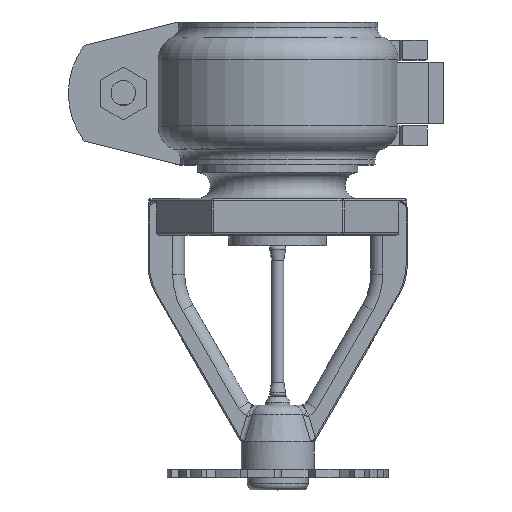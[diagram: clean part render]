
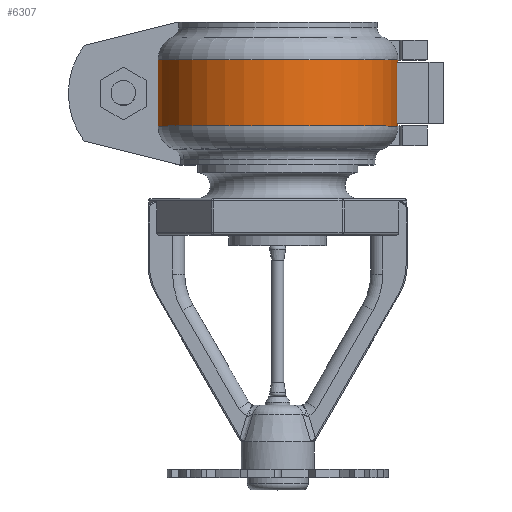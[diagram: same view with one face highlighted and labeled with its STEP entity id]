
A CAD part, top view. The second image highlights one B-rep face of the part: STEP entity #6307.
In plain terms, the highlighted cylindrical face has radius 25.019 mm (diameter 50.038 mm), a partial arc.
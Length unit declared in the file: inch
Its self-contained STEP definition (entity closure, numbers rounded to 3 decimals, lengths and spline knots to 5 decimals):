
#574=LINE('',#11424,#1024);
#577=LINE('',#11437,#1027);
#583=LINE('',#11463,#1033);
#584=LINE('',#11467,#1034);
#585=LINE('',#11471,#1035);
#586=LINE('',#11475,#1036);
#587=LINE('',#11481,#1037);
#588=LINE('',#11484,#1038);
#1024=VECTOR('',#8629,0.3937);
#1027=VECTOR('',#8642,0.3937);
#1033=VECTOR('',#8672,0.3937);
#1034=VECTOR('',#8675,0.3937);
#1035=VECTOR('',#8678,0.3937);
#1036=VECTOR('',#8681,0.3937);
#1037=VECTOR('',#8686,0.3937);
#1038=VECTOR('',#8689,0.3937);
#1218=CYLINDRICAL_SURFACE('',#7018,0.985);
#1274=FACE_BOUND('',#1911,.T.);
#1565=FACE_OUTER_BOUND('',#1910,.T.);
#1910=EDGE_LOOP('',(#5249,#5250,#5251,#5252,#5253,#5254,#5255,#5256,#5257,
#5258,#5259,#5260));
#1911=EDGE_LOOP('',(#5261,#5262,#5263,#5264));
#2262=CIRCLE('',#7009,0.985);
#2268=CIRCLE('',#7019,0.985);
#2269=CIRCLE('',#7020,0.985);
#2270=CIRCLE('',#7021,0.985);
#2271=CIRCLE('',#7022,0.985);
#2272=CIRCLE('',#7023,0.985);
#2273=CIRCLE('',#7024,0.985);
#2274=CIRCLE('',#7025,0.985);
#2787=VERTEX_POINT('',#11407);
#2790=VERTEX_POINT('',#11422);
#2794=VERTEX_POINT('',#11434);
#2795=VERTEX_POINT('',#11436);
#2802=VERTEX_POINT('',#11460);
#2803=VERTEX_POINT('',#11462);
#2804=VERTEX_POINT('',#11464);
#2805=VERTEX_POINT('',#11466);
#2806=VERTEX_POINT('',#11468);
#2807=VERTEX_POINT('',#11470);
#2808=VERTEX_POINT('',#11472);
#2809=VERTEX_POINT('',#11474);
#2810=VERTEX_POINT('',#11477);
#2811=VERTEX_POINT('',#11478);
#2812=VERTEX_POINT('',#11480);
#2813=VERTEX_POINT('',#11482);
#3623=EDGE_CURVE('',#2787,#2790,#574,.T.);
#3629=EDGE_CURVE('',#2795,#2794,#577,.T.);
#3632=EDGE_CURVE('',#2790,#2795,#2262,.T.);
#3641=EDGE_CURVE('',#2802,#2794,#2268,.T.);
#3642=EDGE_CURVE('',#2802,#2803,#583,.T.);
#3643=EDGE_CURVE('',#2803,#2804,#2269,.T.);
#3644=EDGE_CURVE('',#2804,#2805,#584,.T.);
#3645=EDGE_CURVE('',#2805,#2806,#2270,.T.);
#3646=EDGE_CURVE('',#2806,#2807,#585,.T.);
#3647=EDGE_CURVE('',#2807,#2808,#2271,.T.);
#3648=EDGE_CURVE('',#2808,#2809,#586,.T.);
#3649=EDGE_CURVE('',#2787,#2809,#2272,.T.);
#3650=EDGE_CURVE('',#2810,#2811,#2273,.T.);
#3651=EDGE_CURVE('',#2811,#2812,#587,.T.);
#3652=EDGE_CURVE('',#2812,#2813,#2274,.T.);
#3653=EDGE_CURVE('',#2813,#2810,#588,.T.);
#5249=ORIENTED_EDGE('',*,*,#3623,.T.);
#5250=ORIENTED_EDGE('',*,*,#3632,.T.);
#5251=ORIENTED_EDGE('',*,*,#3629,.T.);
#5252=ORIENTED_EDGE('',*,*,#3641,.F.);
#5253=ORIENTED_EDGE('',*,*,#3642,.T.);
#5254=ORIENTED_EDGE('',*,*,#3643,.T.);
#5255=ORIENTED_EDGE('',*,*,#3644,.T.);
#5256=ORIENTED_EDGE('',*,*,#3645,.T.);
#5257=ORIENTED_EDGE('',*,*,#3646,.T.);
#5258=ORIENTED_EDGE('',*,*,#3647,.T.);
#5259=ORIENTED_EDGE('',*,*,#3648,.T.);
#5260=ORIENTED_EDGE('',*,*,#3649,.F.);
#5261=ORIENTED_EDGE('',*,*,#3650,.T.);
#5262=ORIENTED_EDGE('',*,*,#3651,.T.);
#5263=ORIENTED_EDGE('',*,*,#3652,.T.);
#5264=ORIENTED_EDGE('',*,*,#3653,.T.);
#6307=ADVANCED_FACE('',(#1565,#1274),#1218,.T.);
#7009=AXIS2_PLACEMENT_3D('',#11442,#8647,#8648);
#7018=AXIS2_PLACEMENT_3D('',#11459,#8668,#8669);
#7019=AXIS2_PLACEMENT_3D('',#11461,#8670,#8671);
#7020=AXIS2_PLACEMENT_3D('',#11465,#8673,#8674);
#7021=AXIS2_PLACEMENT_3D('',#11469,#8676,#8677);
#7022=AXIS2_PLACEMENT_3D('',#11473,#8679,#8680);
#7023=AXIS2_PLACEMENT_3D('',#11476,#8682,#8683);
#7024=AXIS2_PLACEMENT_3D('',#11479,#8684,#8685);
#7025=AXIS2_PLACEMENT_3D('',#11483,#8687,#8688);
#8629=DIRECTION('',(0.,0.,-1.));
#8642=DIRECTION('',(0.,0.,1.));
#8647=DIRECTION('center_axis',(0.,0.,
-1.));
#8648=DIRECTION('ref_axis',(0.,-1.,0.));
#8668=DIRECTION('center_axis',(0.,0.,
1.));
#8669=DIRECTION('ref_axis',(-1.,0.,0.));
#8670=DIRECTION('center_axis',(0.,0.,
1.));
#8671=DIRECTION('ref_axis',(-1.,0.,0.));
#8672=DIRECTION('',(0.,0.,-1.));
#8673=DIRECTION('center_axis',(0.,0.,
1.));
#8674=DIRECTION('ref_axis',(-1.,0.,0.));
#8675=DIRECTION('',(0.,0.,1.));
#8676=DIRECTION('center_axis',(0.,0.,
1.));
#8677=DIRECTION('ref_axis',(0.,-1.,0.));
#8678=DIRECTION('',(0.,0.,-1.));
#8679=DIRECTION('center_axis',(0.,0.,
1.));
#8680=DIRECTION('ref_axis',(-1.,0.,0.));
#8681=DIRECTION('',(0.,0.,1.));
#8682=DIRECTION('center_axis',(0.,0.,
1.));
#8683=DIRECTION('ref_axis',(-1.,0.,0.));
#8684=DIRECTION('center_axis',(0.,0.,
1.));
#8685=DIRECTION('ref_axis',(0.,-1.,0.));
#8686=DIRECTION('',(0.,0.,-1.));
#8687=DIRECTION('center_axis',(0.,0.,
-1.));
#8688=DIRECTION('ref_axis',(0.,-1.,0.));
#8689=DIRECTION('',(0.,0.,1.));
#11407=CARTESIAN_POINT('',(-0.74535,-0.64395,0.27186));
#11422=CARTESIAN_POINT('',(-0.74535,-0.64395,0.27));
#11424=CARTESIAN_POINT('',(-0.74535,-0.64395,0.433));
#11434=CARTESIAN_POINT('',(-0.985,0.,0.27186));
#11436=CARTESIAN_POINT('',(-0.985,0.,0.27));
#11437=CARTESIAN_POINT('',(-0.985,0.,0.00025));
#11442=CARTESIAN_POINT('Origin',(0.,0.,
0.27));
#11459=CARTESIAN_POINT('Origin',(0.,0.,
0.00025));
#11460=CARTESIAN_POINT('',(0.97991,0.1,0.27186));
#11461=CARTESIAN_POINT('Origin',(0.,0.,
0.27186));
#11462=CARTESIAN_POINT('',(0.97991,0.1,-0.27135));
#11463=CARTESIAN_POINT('',(0.97991,0.1,0.00025));
#11464=CARTESIAN_POINT('',(-0.985,0.,-0.27135));
#11465=CARTESIAN_POINT('Origin',(0.,0.,
-0.27135));
#11466=CARTESIAN_POINT('',(-0.985,0.,-0.27));
#11467=CARTESIAN_POINT('',(-0.985,0.,0.00025));
#11468=CARTESIAN_POINT('',(-0.74535,-0.64395,-0.27));
#11469=CARTESIAN_POINT('Origin',(0.,0.,
-0.27));
#11470=CARTESIAN_POINT('',(-0.74535,-0.64395,-0.27135));
#11471=CARTESIAN_POINT('',(-0.74535,-0.64395,-0.433));
#11472=CARTESIAN_POINT('',(0.97991,-0.1,-0.27135));
#11473=CARTESIAN_POINT('Origin',(0.,0.,
-0.27135));
#11474=CARTESIAN_POINT('',(0.97991,-0.1,0.27186));
#11475=CARTESIAN_POINT('',(0.97991,-0.1,0.00025));
#11476=CARTESIAN_POINT('Origin',(0.,0.,
0.27186));
#11477=CARTESIAN_POINT('',(-0.975,0.14,0.25));
#11478=CARTESIAN_POINT('',(-0.985,0.,0.25));
#11479=CARTESIAN_POINT('Origin',(0.,0.,
0.25));
#11480=CARTESIAN_POINT('',(-0.985,0.,-0.25));
#11481=CARTESIAN_POINT('',(-0.985,0.,0.00025));
#11482=CARTESIAN_POINT('',(-0.975,0.14,-0.25));
#11483=CARTESIAN_POINT('Origin',(0.,0.,
-0.25));
#11484=CARTESIAN_POINT('',(-0.975,0.14,0.00025));
